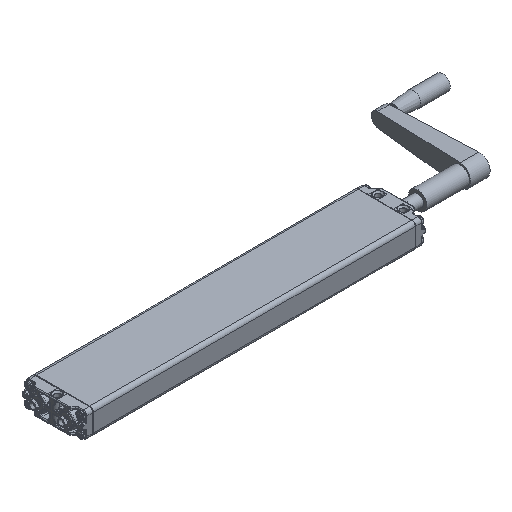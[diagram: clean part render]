
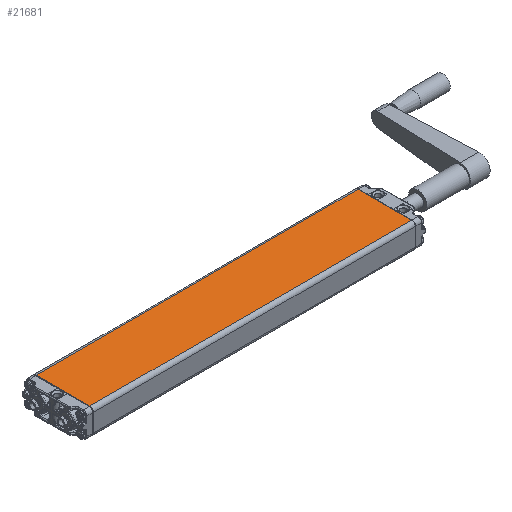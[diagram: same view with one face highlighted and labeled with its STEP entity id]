
A CAD part, isometric view. The second image highlights one B-rep face of the part: STEP entity #21681.
In plain terms, the highlighted planar face has unit normal (0, 0, 1).
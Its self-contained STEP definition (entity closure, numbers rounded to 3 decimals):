
#2630=LINE('',#52467,#3539);
#2631=LINE('',#52470,#3540);
#2632=LINE('',#52472,#3541);
#2633=LINE('',#52474,#3542);
#3539=VECTOR('',#27576,1000.);
#3540=VECTOR('',#27577,1000.);
#3541=VECTOR('',#27578,1000.);
#3542=VECTOR('',#27579,1000.);
#7993=ORIENTED_EDGE('',*,*,#12159,.T.);
#7994=ORIENTED_EDGE('',*,*,#12160,.T.);
#7995=ORIENTED_EDGE('',*,*,#12161,.T.);
#7996=ORIENTED_EDGE('',*,*,#12162,.T.);
#12159=EDGE_CURVE('',#14467,#14468,#2630,.T.);
#12160=EDGE_CURVE('',#14468,#14469,#2631,.F.);
#12161=EDGE_CURVE('',#14469,#14470,#2632,.F.);
#12162=EDGE_CURVE('',#14470,#14467,#2633,.T.);
#14467=VERTEX_POINT('',#52468);
#14468=VERTEX_POINT('',#52469);
#14469=VERTEX_POINT('',#52471);
#14470=VERTEX_POINT('',#52473);
#17024=EDGE_LOOP('',(#7993,#7994,#7995,#7996));
#18611=FACE_BOUND('',#17024,.T.);
#19466=PLANE('',#23555);
#21681=ADVANCED_FACE('',(#18611),#19466,.T.);
#23555=AXIS2_PLACEMENT_3D('',#52466,#27574,#27575);
#27574=DIRECTION('',(0.,0.,1.));
#27575=DIRECTION('',(1.,0.,0.));
#27576=DIRECTION('',(0.,-1.,0.));
#27577=DIRECTION('',(-1.,0.,0.));
#27578=DIRECTION('',(0.,-1.,0.));
#27579=DIRECTION('',(-1.,0.,0.));
#52466=CARTESIAN_POINT('',(42.5,450.5,17.5));
#52467=CARTESIAN_POINT('',(-37.5,450.5,17.5));
#52468=CARTESIAN_POINT('',(-37.5,450.,17.5));
#52469=CARTESIAN_POINT('',(-37.5,0.5,17.5));
#52470=CARTESIAN_POINT('',(37.5,0.5,17.5));
#52471=CARTESIAN_POINT('',(37.5,0.5,17.5));
#52472=CARTESIAN_POINT('',(37.5,450.5,17.5));
#52473=CARTESIAN_POINT('',(37.5,450.,17.5));
#52474=CARTESIAN_POINT('',(42.5,450.,17.5));
